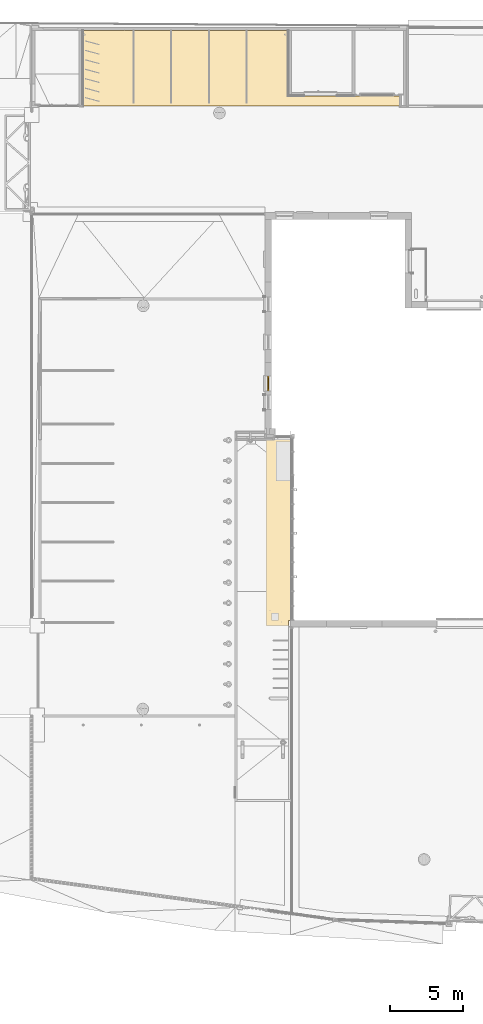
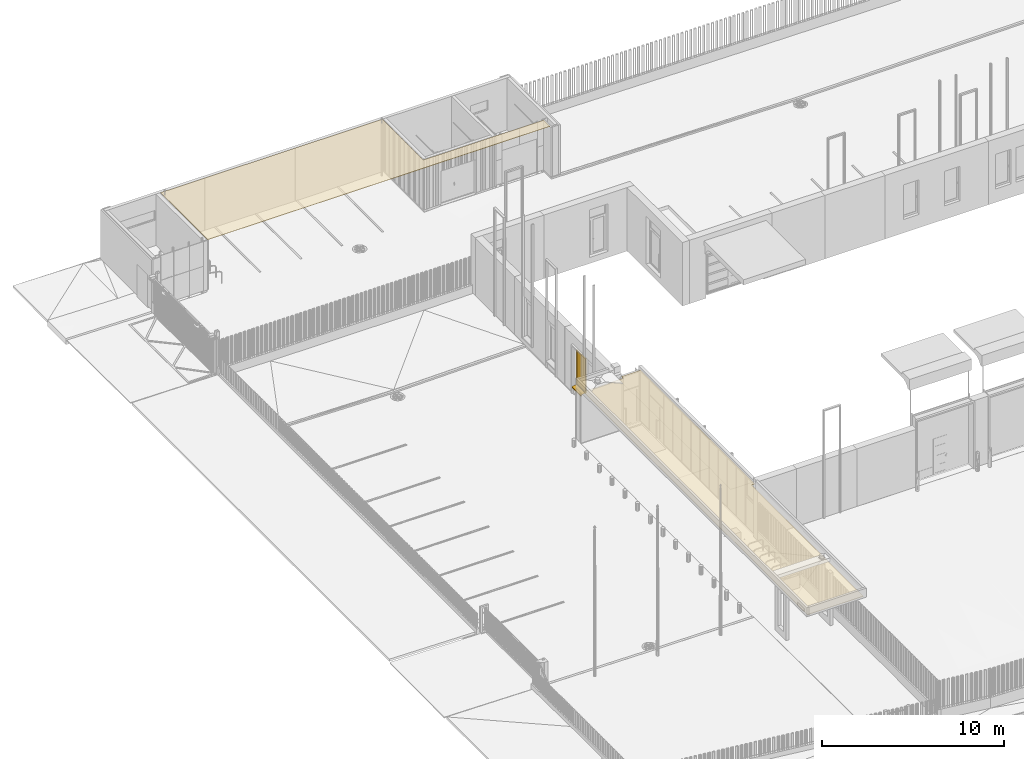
# One storey, part 63 of 77: 2 coverings, 1 window.
"""IFC2X3 building model written with IfcOpenShell, lengths in millimetres."""

from ifc_helpers import new_model, entity, si_unit, converted_unit, derived_unit, direction, frame, origin, place, context, subcontext, project, spatial, polyline, outline, extrude, faceted_brep, source, transform, mapped, material, material_list, layer, layer_set, layer_usage, type_object, type_shapes, element, save


model = new_model("IFC2X3")

# Units and contexts
model_context = context("Model", 3, precision=0.01, world=origin(), true_north=direction((6.12303176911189e-17, 1.0)))
body_context = subcontext(model_context, "Body", "Model", "MODEL_VIEW")
ifc_project = project(units=[si_unit("LENGTHUNIT", "METRE", prefix="MILLI"), si_unit("AREAUNIT", "SQUARE_METRE"), si_unit("VOLUMEUNIT", "CUBIC_METRE"), converted_unit("PLANEANGLEUNIT", "DEGREE", entity("IfcRatioMeasure", 0.0174532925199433), si_unit("PLANEANGLEUNIT", "RADIAN"), dimensions=[0, 0, 0, 0, 0, 0, 0]), si_unit("MASSUNIT", "GRAM", prefix="KILO"), derived_unit("MASSDENSITYUNIT", [(si_unit("MASSUNIT", "GRAM", prefix="KILO"), 1), (si_unit("LENGTHUNIT", "METRE"), -3)]), si_unit("TIMEUNIT", "SECOND"), si_unit("FREQUENCYUNIT", "HERTZ"), si_unit("THERMODYNAMICTEMPERATUREUNIT", "DEGREE_CELSIUS"), derived_unit("THERMALTRANSMITTANCEUNIT", [(si_unit("MASSUNIT", "GRAM", prefix="KILO"), 1), (si_unit("THERMODYNAMICTEMPERATUREUNIT", "KELVIN"), -1), (si_unit("TIMEUNIT", "SECOND"), -3)]), derived_unit("VOLUMETRICFLOWRATEUNIT", [(si_unit("LENGTHUNIT", "METRE"), 3), (si_unit("TIMEUNIT", "SECOND"), -1)]), si_unit("ELECTRICCURRENTUNIT", "AMPERE"), si_unit("ELECTRICVOLTAGEUNIT", "VOLT"), si_unit("POWERUNIT", "WATT"), si_unit("FORCEUNIT", "NEWTON", prefix="KILO"), si_unit("ILLUMINANCEUNIT", "LUX"), si_unit("LUMINOUSFLUXUNIT", "LUMEN"), si_unit("LUMINOUSINTENSITYUNIT", "CANDELA"), derived_unit("USERDEFINED", [(si_unit("MASSUNIT", "GRAM", prefix="KILO"), -1), (si_unit("LENGTHUNIT", "METRE"), -2), (si_unit("TIMEUNIT", "SECOND"), 3), (si_unit("LUMINOUSFLUXUNIT", "LUMEN"), 1)]), derived_unit("LINEARVELOCITYUNIT", [(si_unit("LENGTHUNIT", "METRE"), 1), (si_unit("TIMEUNIT", "SECOND"), -1)]), si_unit("PRESSUREUNIT", "PASCAL"), derived_unit("USERDEFINED", [(si_unit("LENGTHUNIT", "METRE"), -2), (si_unit("MASSUNIT", "GRAM", prefix="KILO"), 1), (si_unit("TIMEUNIT", "SECOND"), -2)])], contexts=[model_context])

# Site, building, storey
site_placement = place(None, origin())
site = spatial("IfcSite", under=ifc_project, at=site_placement, Name="Default", CompositionType="ELEMENT")
building_placement = place(site_placement, origin())
building = spatial("IfcBuilding", under=site, at=building_placement, CompositionType="ELEMENT")
storey_placement = place(building_placement, origin())
storey = spatial("IfcBuildingStorey", under=building, at=storey_placement, Name="1. KORRUS", CompositionType="ELEMENT", Elevation=0.0)

# Window
ifc_material_1 = material(Name="Aluminium_ALUPROF_black")
ifc_material_2 = material(Name="Glass_ALUPROF_Clear")
ifc_material_3 = material(Name="Glass, Clear Glazing")
ifc_material_4 = material(Name="ExpandingFoam_ALUPROF_Yellow")
ifc_material_list_1 = material_list([ifc_material_1, ifc_material_2, ifc_material_3, ifc_material_4])
ifc_material_list_2 = material_list([ifc_material_1, ifc_material_2, ifc_material_3, ifc_material_4])
window_style = type_object("IfcWindowStyle", Name="A10-1 RC3", ConstructionType="NOTDEFINED", OperationType="NOTDEFINED", ParameterTakesPrecedence=False, Sizeable=False, material=ifc_material_list_2)
shared_shape = source(origin(), body_context, "Body", "Brep", [
    faceted_brep([(950.499999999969, 170.00000211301, 1187.41671082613), (947.847009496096, 170.00000211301, 1186.31780617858), (945.0, 170.00000211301, 1185.94299026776), (942.152990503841, 170.00000211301, 1186.31780617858), (939.499999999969, 170.00000211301, 1187.41671082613), (937.221825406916, 170.00000211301, 1189.1648156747), (935.47372055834, 170.00000211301, 1191.44299026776), (934.374815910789, 170.00000211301, 1194.09598077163), (934.0, 170.00000211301, 1196.94299026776), (934.374815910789, 170.00000211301, 1199.78999976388), (935.47372055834, 170.00000211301, 1202.44299026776), (937.221825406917, 170.00000211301, 1204.72116486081), (939.499999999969, 170.00000211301, 1206.46926970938), (942.152990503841, 170.00000211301, 1207.56817435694), (945.0, 170.00000211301, 1207.94299026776), (947.847009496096, 170.00000211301, 1207.56817435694), (950.499999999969, 170.00000211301, 1206.46926970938), (952.778174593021, 170.00000211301, 1204.72116486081), (954.526279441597, 170.00000211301, 1202.44299026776), (955.625184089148, 170.00000211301, 1199.78999976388), (956.0, 170.00000211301, 1196.94299026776), (955.625184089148, 170.00000211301, 1194.09598077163), (954.526279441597, 170.00000211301, 1191.44299026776), (952.778174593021, 170.00000211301, 1189.1648156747), (956.0, 133.938979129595, 1196.94299026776), (956.0, 126.701055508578, 1196.94299026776), (955.680359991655, 127.586775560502, 1194.31051796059), (934.0, 141.176898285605, 1196.94299026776), (938.751287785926, 129.746962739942, 1187.89016774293), (936.766381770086, 129.155307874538, 1189.64864102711), (934.0, 133.938976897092, 1196.94299026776), (934.319640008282, 127.586775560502, 1194.31051796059), (934.0, 126.701055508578, 1196.94299026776), (948.900653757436, 130.16160054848, 1186.65781159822), (956.0, 155.652742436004, 1196.94299026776), (956.0, 141.176898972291, 1196.94299026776), (953.23361822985, 129.155307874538, 1189.64864102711), (943.67409651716, 130.375124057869, 1186.02319265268), (941.0993462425, 130.16160054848, 1186.65781159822), (934.0, 155.652741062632, 1196.94299026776), (935.259983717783, 128.42102078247, 1191.83103537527), (951.248712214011, 129.746962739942, 1187.89016774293), (946.325903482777, 130.375124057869, 1186.02319265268), (954.740016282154, 128.42102078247, 1191.83103537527), (955.680359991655, 125.815335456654, 1199.57546257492), (954.740016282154, 124.981090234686, 1202.05494516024), (953.233618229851, 124.246803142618, 1204.2373395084), (948.900653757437, 123.240510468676, 1207.2281689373), (951.248712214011, 123.655148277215, 1205.99581279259), (946.325903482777, 123.026986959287, 1207.86278788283), (941.099346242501, 123.240510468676, 1207.2281689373), (943.67409651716, 123.026986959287, 1207.86278788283), (938.751287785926, 123.655148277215, 1205.99581279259), (935.259983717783, 124.981090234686, 1202.05494516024), (936.766381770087, 124.246803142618, 1204.2373395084), (934.319640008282, 125.815335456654, 1199.57546257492)], [[[0, 1, 2, 3, 4, 5, 6, 7, 8, 9, 10, 11, 12, 13, 14, 15, 16, 17, 18, 19, 20, 21, 22, 23]], [[24, 25, 26]], [[27, 28, 29]], [[30, 31, 32]], [[33, 34, 35]], [[24, 36, 35]], [[37, 38, 39]], [[27, 39, 38]], [[27, 38, 28]], [[39, 7, 6]], [[7, 39, 8]], [[2, 37, 3]], [[3, 39, 4]], [[5, 4, 39]], [[5, 39, 6]], [[37, 39, 3]], [[27, 29, 30]], [[29, 40, 30]], [[41, 33, 35]], [[42, 34, 33]], [[34, 21, 20]], [[24, 43, 36]], [[31, 30, 40]], [[43, 24, 26]], [[36, 41, 35]], [[34, 42, 1]], [[42, 2, 1]], [[23, 22, 34]], [[0, 23, 34]], [[1, 0, 34]], [[22, 21, 34]], [[37, 2, 42]], [[44, 17, 45]], [[45, 17, 46]], [[47, 48, 15]], [[16, 48, 46]], [[49, 47, 15]], [[19, 25, 24, 35, 34, 20]], [[18, 25, 19]], [[17, 44, 18]], [[18, 44, 25]], [[46, 17, 16]], [[16, 15, 48]], [[15, 14, 49]], [[50, 51, 13]], [[50, 13, 52]], [[53, 54, 11]], [[11, 55, 53]], [[52, 12, 54]], [[32, 55, 10]], [[13, 12, 52]], [[51, 14, 13]], [[32, 10, 9]], [[10, 55, 11]], [[54, 12, 11]], [[9, 8, 39, 27, 30, 32]], [[49, 14, 51]], [[40, 29, 28, 38, 37, 42, 33, 41, 36, 43, 26, 25, 44, 45, 46, 48, 47, 49, 51, 50, 52, 54, 53, 55, 32, 31]]]),
    faceted_brep([(955.049000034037, 132.571410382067, 1076.38165197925), (955.75962360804, 131.218609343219, 1075.75430164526), (956.0, 129.803982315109, 1075.09828001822), (955.75962360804, 128.389355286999, 1074.44225839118), (955.049000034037, 127.036554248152, 1073.81490805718), (953.899186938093, 125.804703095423, 1073.24364723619), (952.360436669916, 124.747639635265, 1072.75344276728), (950.499999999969, 123.911562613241, 1072.36571893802), (948.399186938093, 123.333012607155, 1072.09742114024), (946.149813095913, 123.037275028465, 1071.96027527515), (943.850186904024, 123.037275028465, 1071.96027527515), (941.600813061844, 123.333012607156, 1072.09742114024), (939.499999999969, 123.911562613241, 1072.36571893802), (937.639563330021, 124.747639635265, 1072.75344276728), (936.100813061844, 125.804703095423, 1073.24364723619), (934.9509999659, 127.036554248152, 1073.81490805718), (934.240376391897, 128.389355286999, 1074.44225839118), (934.0, 129.803982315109, 1075.09828001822), (934.240376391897, 131.218609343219, 1075.75430164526), (934.9509999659, 132.571410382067, 1076.38165197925), (936.100813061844, 133.803261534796, 1076.95291280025), (937.639563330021, 134.860324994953, 1077.44311726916), (939.499999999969, 135.696402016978, 1077.83084109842), (941.600813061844, 136.274952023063, 1078.0991388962), (943.850186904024, 136.570689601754, 1078.23628476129), (946.149813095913, 136.570689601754, 1078.23628476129), (948.399186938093, 136.274952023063, 1078.0991388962), (950.499999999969, 135.696402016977, 1077.83084109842), (952.360436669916, 134.860324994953, 1077.44311726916), (953.899186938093, 133.803261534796, 1076.95291280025), (948.68842375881, 110.773915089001, 1167.30805814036), (951.988167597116, 113.309479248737, 1173.69184263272), (950.573339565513, 123.480940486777, 1206.51358043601), (938.011836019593, 113.298332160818, 1173.64017782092), (936.916337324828, 110.424269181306, 1138.09208915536), (941.318047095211, 110.78223389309, 1167.36552971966), (949.430028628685, 110.108217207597, 1118.21363048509), (953.083662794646, 110.424270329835, 1138.09199796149), (953.508507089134, 124.285448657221, 1204.1224801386), (954.19142126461, 115.243235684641, 1174.69763342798), (956.0, 117.921698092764, 1167.15812458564), (955.371993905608, 125.361108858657, 1200.92548162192), (955.259257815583, 113.22414726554, 1151.54650001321), (934.740741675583, 113.224148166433, 1151.54650003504), (935.808733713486, 115.242085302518, 1174.69325461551), (956.0, 115.553743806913, 1135.8731150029), (955.633972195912, 114.828311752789, 1120.25483715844), (956.0, 119.569975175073, 1104.75673800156), (934.0, 115.553743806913, 1135.8731150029), (934.366027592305, 114.828312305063, 1120.2548371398), (956.0, 126.575723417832, 1197.31549313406), (954.480174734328, 114.941355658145, 1108.09067849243), (935.519825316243, 114.941347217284, 1108.09071919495), (945.0, 111.909607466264, 1104.60802066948), (946.947048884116, 123.054912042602, 1207.77979099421), (934.0, 117.921698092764, 1167.15812458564), (939.426976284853, 123.480881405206, 1206.51375603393), (936.490829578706, 124.285709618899, 1204.1217045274), (943.066992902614, 123.054116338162, 1207.7821559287), (952.291347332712, 113.637257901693, 1105.5197525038), (945.006935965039, 112.485607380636, 1177.75734635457), (934.626914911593, 125.362122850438, 1200.92246790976), (934.0, 126.575723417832, 1197.31549313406), (940.569971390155, 110.108213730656, 1118.21365596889), (945.0, 108.001990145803, 1140.74465153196), (937.708656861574, 113.637244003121, 1105.51980373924), (934.0, 119.569975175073, 1104.75673800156), (952.37817947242, 122.829647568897, 1162.78854282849), (950.664719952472, 129.836643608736, 1187.62362482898), (953.535785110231, 128.954017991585, 1190.24690008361), (934.637953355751, 127.827381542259, 1193.59540647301), (955.361350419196, 127.828051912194, 1193.59341404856), (955.262614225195, 118.655960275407, 1151.6886687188), (936.462897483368, 128.953448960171, 1190.24859131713), (934.642168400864, 118.480307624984, 1151.68312924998), (947.301813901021, 127.545958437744, 1103.04808296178), (947.317709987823, 123.097500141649, 1131.11183665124), (951.509508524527, 125.112826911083, 1107.63594108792), (940.973774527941, 123.421326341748, 1156.56478539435), (942.689045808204, 124.322456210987, 1119.08159943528), (938.456580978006, 121.742418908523, 1131.9901797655), (937.614696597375, 122.804524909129, 1162.65529605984), (939.333792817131, 129.83632392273, 1187.62457497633), (935.412715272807, 120.793234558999, 1117.9491726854), (943.010090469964, 130.336405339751, 1186.13826959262), (934.296285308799, 118.50986941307, 1120.22538200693), (953.261925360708, 120.622705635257, 1132.7989699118), (955.652208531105, 118.652827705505, 1120.22757977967), (938.496755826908, 126.174017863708, 1103.2221644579), (944.682804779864, 123.865773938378, 1155.88247301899), (954.571217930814, 122.920731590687, 1106.67624885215), (950.553982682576, 121.984026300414, 1138.20545146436), (948.405003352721, 123.947871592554, 1159.5706543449), (947.00616715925, 130.335318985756, 1186.14149837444)], [[[0, 1, 2, 3, 4, 5, 6, 7, 8, 9, 10, 11, 12, 13, 14, 15, 16, 17, 18, 19, 20, 21, 22, 23, 24, 25, 26, 27, 28, 29]], [[30, 31, 32]], [[33, 34, 35]], [[30, 36, 37]], [[38, 31, 39]], [[40, 41, 42]], [[43, 34, 44]], [[45, 46, 47]], [[47, 46, 3]], [[45, 40, 42]], [[48, 49, 43]], [[40, 50, 41]], [[51, 46, 42]], [[15, 52, 49]], [[10, 9, 53]], [[30, 32, 54]], [[55, 48, 43]], [[35, 56, 33]], [[57, 44, 33]], [[56, 35, 58]], [[52, 15, 14]], [[59, 36, 7]], [[43, 49, 52]], [[60, 54, 58]], [[61, 62, 55]], [[39, 42, 41]], [[57, 61, 44]], [[58, 35, 60]], [[9, 8, 53]], [[5, 4, 51]], [[31, 30, 37]], [[4, 46, 51]], [[31, 38, 32]], [[5, 59, 6]], [[35, 63, 64]], [[63, 35, 34]], [[5, 51, 59]], [[36, 53, 8]], [[55, 43, 61]], [[51, 37, 59]], [[46, 45, 42]], [[37, 39, 31]], [[7, 36, 8]], [[34, 43, 52]], [[63, 11, 53]], [[42, 37, 51]], [[52, 65, 34]], [[33, 56, 57]], [[66, 16, 49]], [[53, 64, 63]], [[16, 66, 17]], [[11, 10, 53]], [[14, 13, 65]], [[16, 15, 49]], [[63, 12, 11]], [[66, 49, 48]], [[52, 14, 65]], [[12, 65, 13]], [[4, 3, 46]], [[64, 53, 36]], [[3, 2, 47]], [[30, 64, 36]], [[30, 60, 64]], [[54, 60, 30]], [[64, 60, 35]], [[6, 59, 7]], [[59, 37, 36]], [[65, 63, 34]], [[63, 65, 12]], [[33, 44, 34]], [[43, 44, 61]], [[38, 39, 41]], [[42, 39, 37]], [[67, 68, 69]], [[55, 62, 70]], [[71, 72, 69]], [[73, 74, 70]], [[48, 55, 74]], [[75, 76, 77]], [[72, 71, 40]], [[78, 79, 80]], [[81, 82, 78]], [[83, 20, 19]], [[84, 78, 82]], [[74, 85, 48]], [[86, 67, 72]], [[48, 85, 66]], [[72, 40, 45]], [[47, 87, 45]], [[40, 71, 50]], [[80, 88, 83]], [[72, 67, 69]], [[76, 79, 89]], [[72, 90, 86]], [[87, 90, 72]], [[86, 91, 67]], [[27, 26, 75]], [[91, 76, 92]], [[91, 77, 76]], [[88, 80, 79]], [[81, 80, 83]], [[19, 18, 85]], [[90, 87, 1]], [[84, 93, 89]], [[88, 22, 21]], [[82, 81, 73]], [[79, 24, 23]], [[67, 92, 68]], [[25, 24, 75]], [[23, 22, 88]], [[66, 18, 17]], [[86, 77, 91]], [[88, 21, 20]], [[84, 89, 78]], [[19, 85, 83]], [[20, 83, 88]], [[74, 55, 70]], [[75, 26, 25]], [[79, 23, 88]], [[27, 77, 28]], [[75, 77, 27]], [[90, 0, 29]], [[28, 77, 29]], [[77, 86, 90]], [[83, 74, 81]], [[47, 2, 1]], [[0, 90, 1]], [[76, 75, 79]], [[1, 87, 47]], [[93, 68, 92]], [[29, 77, 90]], [[92, 76, 89]], [[79, 75, 24]], [[45, 87, 72]], [[78, 89, 79]], [[67, 91, 92]], [[93, 92, 89]], [[73, 81, 74]], [[80, 81, 78]], [[66, 85, 18]], [[83, 85, 74]], [[61, 57, 56, 58, 54, 32, 38, 41, 50, 71, 69, 68, 93, 84, 82, 73, 70, 62]]]),
    faceted_brep([(936.749999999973, 170.000002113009, 1165.15357110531), (940.729485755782, 170.000002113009, 1163.50521413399), (945.0, 170.000002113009, 1162.94299026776), (949.270514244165, 170.000002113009, 1163.50521413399), (953.249999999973, 170.000002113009, 1165.15357110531), (956.667261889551, 170.000002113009, 1167.77572837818), (959.289419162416, 170.000002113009, 1171.19299026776), (960.937776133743, 170.000002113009, 1175.17247602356), (961.499999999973, 170.00000211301, 1179.44299026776), (961.499999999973, 170.00000211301, 1214.44299026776), (960.937776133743, 170.00000211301, 1218.71350451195), (959.289419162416, 170.00000211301, 1222.69299026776), (956.667261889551, 170.00000211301, 1226.11025215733), (953.249999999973, 170.00000211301, 1228.7324094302), (949.270514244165, 170.00000211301, 1230.38076640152), (945.0, 170.00000211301, 1230.94299026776), (940.729485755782, 170.00000211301, 1230.38076640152), (936.749999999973, 170.00000211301, 1228.7324094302), (933.332738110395, 170.00000211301, 1226.11025215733), (930.71058083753, 170.00000211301, 1222.69299026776), (929.062223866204, 170.00000211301, 1218.71350451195), (928.499999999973, 170.00000211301, 1214.44299026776), (928.499999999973, 170.00000211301, 1179.44299026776), (929.062223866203, 170.00000211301, 1175.17247602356), (930.71058083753, 170.000002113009, 1171.19299026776), (933.332738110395, 170.000002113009, 1167.77572837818), (940.729485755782, 184.000002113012, 1230.38076640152), (945.0, 184.000002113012, 1230.94299026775), (949.270514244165, 184.000002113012, 1230.38076640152), (953.249999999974, 184.000002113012, 1228.7324094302), (956.667261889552, 184.000002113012, 1226.11025215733), (959.289419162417, 184.000002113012, 1222.69299026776), (960.937776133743, 184.000002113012, 1218.71350451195), (961.499999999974, 184.000002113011, 1214.44299026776), (961.499999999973, 184.000002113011, 1179.44299026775), (960.937776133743, 184.000002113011, 1175.17247602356), (959.289419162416, 184.000002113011, 1171.19299026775), (956.667261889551, 184.000002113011, 1167.77572837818), (953.249999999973, 184.000002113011, 1165.15357110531), (949.270514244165, 184.000002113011, 1163.50521413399), (945.0, 184.000002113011, 1162.94299026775), (940.729485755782, 184.000002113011, 1163.50521413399), (936.749999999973, 184.000002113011, 1165.15357110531), (933.332738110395, 184.000002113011, 1167.77572837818), (930.71058083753, 184.000002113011, 1171.19299026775), (929.062223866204, 184.000002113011, 1175.17247602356), (928.499999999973, 184.000002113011, 1179.44299026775), (928.499999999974, 184.000002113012, 1214.44299026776), (929.062223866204, 184.000002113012, 1218.71350451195), (930.71058083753, 184.000002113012, 1222.69299026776), (933.332738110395, 184.000002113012, 1226.11025215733), (936.749999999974, 184.000002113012, 1228.7324094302)], [[[0, 1, 2, 3, 4, 5, 6, 7, 8, 9, 10, 11, 12, 13, 14, 15, 16, 17, 18, 19, 20, 21, 22, 23, 24, 25]], [[26, 27, 28, 29, 30, 31, 32, 33, 34, 35, 36, 37, 38, 39, 40, 41, 42, 43, 44, 45, 46, 47, 48, 49, 50, 51]], [[46, 22, 21, 47]], [[47, 21, 20, 48]], [[48, 20, 19, 49]], [[51, 50, 18, 17]], [[18, 50, 49, 19]], [[26, 51, 17, 16]], [[26, 16, 15, 27]], [[27, 15, 14, 28]], [[28, 14, 13, 29]], [[12, 30, 29, 13]], [[11, 31, 30, 12]], [[11, 10, 32, 31]], [[10, 9, 33, 32]], [[33, 9, 8, 34]], [[34, 8, 7, 35]], [[35, 7, 6, 36]], [[38, 37, 5, 4]], [[5, 37, 36, 6]], [[39, 38, 4, 3]], [[39, 3, 2, 40]], [[40, 2, 1, 41]], [[41, 1, 0, 42]], [[44, 43, 25, 24]], [[25, 43, 42, 0]], [[45, 44, 24, 23]], [[45, 23, 22, 46]]]),
    faceted_brep([(10.0, 193.0, 56.942990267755), (10.0, 257.499999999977, 56.942990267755), (10.0, 257.499999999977, 21.942990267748), (10.0, 193.0, 21.942990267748), (990.0, 193.0, 56.942990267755), (990.0, 193.0, 21.942990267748), (990.0, 257.499999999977, 21.942990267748), (990.0, 257.499999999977, 56.942990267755)], [[[0, 1, 2, 3]], [[4, 5, 6, 7]], [[1, 0, 4, 7]], [[2, 1, 7, 6]], [[3, 2, 6, 5]], [[0, 3, 5, 4]]]),
    faceted_brep([(29.5000000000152, 184.000002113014, 2317.44299026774), (29.5000000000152, 193.0, 2317.44299026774), (29.5000000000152, 193.0, 76.442990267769), (29.5000000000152, 184.000002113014, 76.4429902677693), (99.0, 213.499999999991, 2247.94299026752), (99.0, 184.000002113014, 2247.94299026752), (99.0, 184.000002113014, 145.942990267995), (99.0, 213.499999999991, 145.942990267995), (83.0, 261.499999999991, 2263.94299026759), (83.0, 213.499999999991, 2263.94299026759), (83.0, 213.499999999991, 129.94299026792), (83.0, 261.499999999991, 129.94299026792), (99.0, 270.0, 2247.94299026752), (99.0, 261.499999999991, 2247.94299026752), (99.0, 261.499999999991, 145.942990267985), (99.0, 270.0, 145.942990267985), (65.4999999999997, 264.799312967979, 2281.44299026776), (65.4999999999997, 270.0, 2281.44299026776), (65.4999999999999, 270.0, 112.442990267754), (65.4999999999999, 264.799312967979, 112.442990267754), (47.0, 193.0, 2299.94299026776), (47.0, 264.799312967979, 2299.94299026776), (47.0, 264.799312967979, 93.9429902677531), (47.0, 193.0, 93.9429902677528), (970.499999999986, 193.0, 76.4429902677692), (970.499999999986, 184.000002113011, 76.4429902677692), (901.0, 184.000002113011, 145.942990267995), (901.0, 213.499999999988, 145.942990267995), (917.0, 213.499999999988, 129.94299026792), (917.0, 261.499999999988, 129.94299026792), (901.0, 261.499999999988, 145.942990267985), (901.0, 270.0, 145.942990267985), (934.500000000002, 270.0, 112.442990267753), (934.500000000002, 264.799312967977, 112.442990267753), (953.0, 264.799312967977, 93.942990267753), (953.0, 193.0, 93.942990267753), (970.499999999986, 193.0, 2317.44299026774), (970.499999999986, 184.000002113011, 2317.44299026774), (901.0, 184.000002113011, 2247.94299026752), (901.0, 213.499999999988, 2247.94299026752), (917.0, 213.499999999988, 2263.94299026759), (917.0, 261.499999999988, 2263.94299026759), (901.0, 261.499999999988, 2247.94299026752), (901.0, 270.0, 2247.94299026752), (934.500000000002, 270.0, 2281.44299026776), (934.500000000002, 264.799312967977, 2281.44299026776), (953.0, 264.799312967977, 2299.94299026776), (953.0, 193.0, 2299.94299026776)], [[[0, 1, 2, 3]], [[4, 5, 6, 7]], [[8, 9, 10, 11]], [[12, 13, 14, 15]], [[16, 17, 18, 19]], [[20, 21, 22, 23]], [[3, 2, 24, 25]], [[7, 6, 26, 27]], [[11, 10, 28, 29]], [[15, 14, 30, 31]], [[19, 18, 32, 33]], [[23, 22, 34, 35]], [[25, 24, 36, 37]], [[27, 26, 38, 39]], [[29, 28, 40, 41]], [[31, 30, 42, 43]], [[33, 32, 44, 45]], [[35, 34, 46, 47]], [[23, 35, 47, 20], [1, 36, 24, 2]], [[37, 36, 1, 0]], [[3, 25, 37, 0], [5, 38, 26, 6]], [[39, 38, 5, 4]], [[7, 27, 39, 4], [9, 40, 28, 10]], [[41, 40, 9, 8]], [[11, 29, 41, 8], [13, 42, 30, 14]], [[43, 42, 13, 12]], [[15, 31, 43, 12], [17, 44, 32, 18]], [[45, 44, 17, 16]], [[19, 33, 45, 16], [21, 46, 34, 22]], [[47, 46, 21, 20]]], outer=[[True], [True], [True], [True], [True], [True], [True], [True], [True], [True], [True], [True], [True], [True], [True], [True], [True], [True], [False, True], [True], [True, False], [True], [False, True], [True], [True, False], [True], [False, True], [True], [False, True], [True]]),
    faceted_brep([(10.0, 193.0, 2336.94299026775), (10.0, 270.0, 2336.94299026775), (10.0, 270.0, 56.942990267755), (10.0, 193.0, 56.9429902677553), (47.0, 265.500001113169, 2299.94299026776), (47.0, 193.0, 2299.94299026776), (47.0, 193.0, 93.9429902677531), (47.0, 265.500001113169, 93.9429902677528), (60.4999999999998, 270.0, 2286.44299026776), (60.4999999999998, 265.500001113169, 2286.44299026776), (60.4999999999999, 265.500001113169, 107.442990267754), (60.4999999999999, 270.0, 107.442990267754), (990.0, 270.0, 56.9429902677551), (990.0, 193.0, 56.9429902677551), (953.0, 193.0, 93.9429902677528), (953.0, 265.500001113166, 93.9429902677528), (939.500000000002, 265.500001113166, 107.442990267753), (939.500000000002, 270.0, 107.442990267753), (990.0, 270.0, 2336.94299026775), (990.0, 193.0, 2336.94299026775), (953.0, 193.0, 2299.94299026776), (953.0, 265.500001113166, 2299.94299026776), (939.500000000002, 265.500001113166, 2286.44299026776), (939.500000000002, 270.0, 2286.44299026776)], [[[0, 1, 2, 3]], [[4, 5, 6, 7]], [[8, 9, 10, 11]], [[3, 2, 12, 13]], [[7, 6, 14, 15]], [[11, 10, 16, 17]], [[13, 12, 18, 19]], [[15, 14, 20, 21]], [[17, 16, 22, 23]], [[11, 17, 23, 8], [1, 18, 12, 2]], [[19, 18, 1, 0]], [[3, 13, 19, 0], [5, 20, 14, 6]], [[21, 20, 5, 4]], [[7, 15, 21, 4], [9, 22, 16, 10]], [[23, 22, 9, 8]]], outer=[[True], [True], [True], [True], [True], [True], [True], [True], [True], [False, True], [True], [True, False], [True], [True, False], [True]]),
    faceted_brep([(83.0, 213.499999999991, 2263.94299026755), (83.0, 213.499999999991, 129.942990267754), (917.0, 213.499999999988, 129.942990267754), (917.0, 213.499999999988, 2263.94299026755), (83.0, 261.499999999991, 2263.94299026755), (917.0, 261.499999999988, 2263.94299026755), (917.0, 261.499999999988, 129.942990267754), (83.0, 261.499999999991, 129.942990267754)], [[[0, 1, 2, 3]], [[4, 5, 6, 7]], [[1, 0, 4, 7]], [[2, 1, 7, 6]], [[3, 2, 6, 5]], [[0, 3, 5, 4]]]),
    faceted_brep([(10.0, 270.0, 2336.94299026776), (10.0, 193.0, 2336.94299026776), (10.0, 193.0, 21.9429902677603), (10.0, 270.0, 21.9429902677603), (0.0, 193.0, 2346.94299026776), (0.0, 270.0, 2346.94299026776), (0.0, 270.0, 21.9429902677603), (0.0, 193.0, 21.9429902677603), (990.0, 270.0, 21.9429902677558), (990.0, 193.0, 21.9429902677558), (990.0, 193.0, 2336.94299026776), (990.0, 270.0, 2336.94299026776), (1000.0, 193.0, 21.9429902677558), (1000.0, 270.0, 21.9429902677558), (1000.0, 270.0, 2346.94299026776), (1000.0, 193.0, 2346.94299026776)], [[[0, 1, 2, 3]], [[4, 5, 6, 7]], [[8, 9, 10, 11]], [[12, 13, 14, 15]], [[11, 10, 1, 0]], [[15, 14, 5, 4]], [[12, 9, 8, 13]], [[9, 12, 15, 4, 7, 2, 1, 10]], [[13, 8, 11, 0, 3, 6, 5, 14]], [[7, 6, 3, 2]]]),
    faceted_brep([(65.4999999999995, 271.374652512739, 112.442990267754), (65.4999999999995, 270.000002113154, 112.442990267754), (65.4999999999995, 270.000002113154, 127.425842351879), (65.4999999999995, 288.918549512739, 123.442990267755), (65.4999999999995, 289.918549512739, 117.442990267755), (65.4999999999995, 288.418549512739, 117.442990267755), (65.4999999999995, 287.170258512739, 121.767210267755), (65.4999999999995, 273.924706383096, 124.555747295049), (934.499999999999, 271.374652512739, 112.442990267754), (934.499999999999, 273.924706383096, 124.555747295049), (934.499999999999, 287.170258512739, 121.767210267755), (934.499999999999, 288.418549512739, 117.442990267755), (934.499999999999, 289.918549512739, 117.442990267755), (934.499999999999, 288.918549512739, 123.442990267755), (934.499999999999, 270.000002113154, 127.425842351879), (934.499999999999, 270.000002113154, 112.442990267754)], [[[0, 1, 2, 3, 4, 5, 6, 7]], [[8, 9, 10, 11, 12, 13, 14, 15]], [[1, 0, 8, 15]], [[2, 1, 15, 14]], [[3, 2, 14, 13]], [[4, 3, 13, 12]], [[5, 4, 12, 11]], [[6, 5, 11, 10]], [[7, 6, 10, 9]], [[0, 7, 9, 8]]]),
    faceted_brep([(10.0, 257.499999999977, 38.9429437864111), (10.0, 257.499999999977, 61.9429902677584), (10.0, 259.499999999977, 61.9429902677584), (10.0, 259.499999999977, 40.6211430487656), (10.0, 550.0, -10.6018448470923), (10.0, 550.0, -90.6018448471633), (10.0, 455.0, -90.6018448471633), (10.0, 455.0, -88.601844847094), (10.0, 548.0, -88.601844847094), (10.0, 548.0, -12.2800441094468), (990.0, 257.499999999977, 38.9429437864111), (990.0, 548.0, -12.2800441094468), (990.0, 548.0, -88.601844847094), (990.0, 455.0, -88.601844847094), (990.0, 455.0, -90.6018448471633), (990.0, 550.0, -90.6018448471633), (990.0, 550.0, -10.6018448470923), (990.0, 259.499999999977, 40.6211430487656), (990.0, 259.499999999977, 61.9429902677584), (990.0, 257.499999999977, 61.9429902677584)], [[[0, 1, 2, 3, 4, 5, 6, 7, 8, 9]], [[10, 11, 12, 13, 14, 15, 16, 17, 18, 19]], [[1, 0, 10, 19]], [[2, 1, 19, 18]], [[3, 2, 18, 17]], [[4, 3, 17, 16]], [[5, 4, 16, 15]], [[9, 8, 12, 11]], [[0, 9, 11, 10]], [[6, 5, 15, 14]], [[7, 6, 14, 13]], [[8, 7, 13, 12]]]),
])
type_shapes(window_style, [shared_shape])
window_placement = place(storey_placement, frame((0.0, 15800.0032962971, 478.057009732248), z_axis=(0.0, 0.0, 1.0), x_axis=(0.0, 1.0, 0.0)))
element("IfcWindow", 1, at=window_placement, inside=storey, type_object=window_style, material=ifc_material_list_1, Name="Aluprof_MB-86-SI_E_Alu_Window-1sash-Tilt-and-turn_ENG_R-00044:A10-1 RC3", ObjectType="A10-1 RC3", OverallHeight=2827.54483511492, OverallWidth=1000.0, context=body_context, shape_type="MappedRepresentation", body=[
    mapped(shared_shape, transform((0.0, 0.0, 0.0), scale=1.0)),
])

# Coverings
ifc_material_5 = material(Name="Metal Stud Layer")
ifc_layer_1 = layer(ifc_material_5, 25.0)
ifc_material_6 = material(Name="Default New Material_must-al-komposiitplaat -ripplagi")
ifc_layer_2 = layer(ifc_material_6, 5.0)
ifc_layer_set = layer_set([ifc_layer_1, ifc_layer_2], Name="Compound Ceiling:varikatus")
ifc_layer_usage_1 = layer_usage(ifc_layer_set, "AXIS3", "POSITIVE", 0.0)
covering_1_placement = place(storey_placement, origin())
element("IfcCovering", 2, at=covering_1_placement, inside=storey, material=ifc_layer_usage_1, Name="Compound Ceiling:varikatus", ObjectType="Compound Ceiling:varikatus", context=body_context, shape_type="SweptSolid", body=[
    extrude(outline(polyline([(-15493.7500871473, 1077.48136572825), (-15493.7500871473, -2472.51863427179), (9231.2502614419, -2472.51863427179), (9231.2502614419, 92.4813657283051), (9431.24991285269, 92.4813657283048), (9431.24991285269, 1302.55590281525), (-3168.7500871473, 1302.55590281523), (-3168.7500871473, 1077.48136572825), (-15493.7500871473, 1077.48136572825)])), frame((97.5186342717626, 3168.7500871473, 3400.0), z_axis=(0.0, 0.0, -1.0), x_axis=(0.0, 1.0, 0.0)), (0.0, 0.0, -1.0), 30.0000000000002),
])
ifc_layer_usage_2 = layer_usage(ifc_layer_set, "AXIS3", "POSITIVE", 0.0)
covering_2_placement = place(storey_placement, origin())
element("IfcCovering", 3, at=covering_2_placement, inside=storey, material=ifc_layer_usage_2, Name="Compound Ceiling:varikatus", ObjectType="Compound Ceiling:varikatus", context=body_context, shape_type="SweptSolid", body=[
    extrude(outline(polyline([(-3236.73314482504, -11949.9994490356), (1963.36685517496, -11949.9994490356), (1963.366855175, 9799.99972452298), (1273.36628965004, 9799.99972452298), (1273.36628965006, 2149.99972451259), (-3236.73314482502, 2149.99972451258), (-3236.73314482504, -11949.9994490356)])), frame((-1000.23491122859, 37363.3662896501, 3370.0), z_axis=(0.0, 0.0, 1.0), x_axis=(0.0, -1.0, 0.0)), (0.0, 0.0, 1.0), 30.0000000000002),
])

save(model, "model.ifc")
